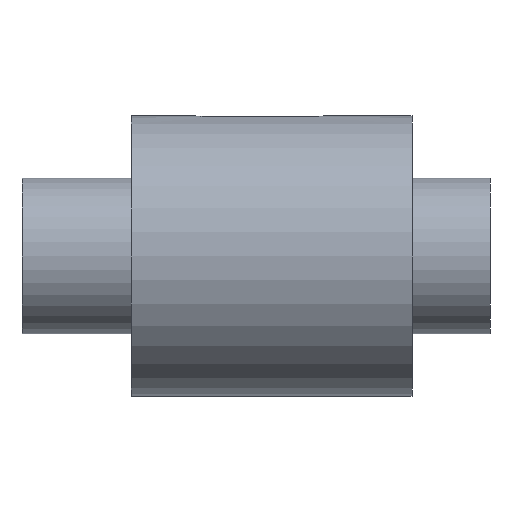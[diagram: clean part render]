
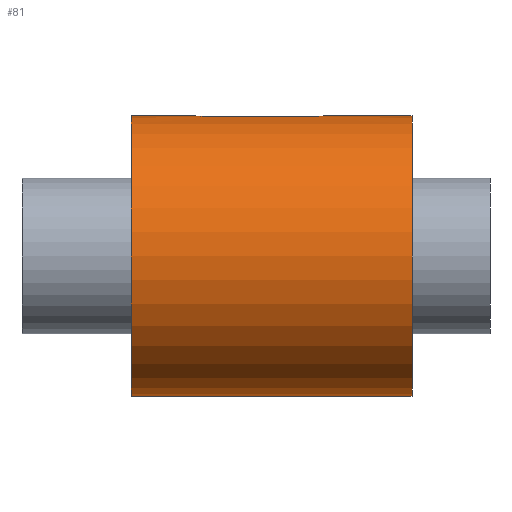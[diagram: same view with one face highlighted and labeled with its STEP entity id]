
A CAD part, left-side view. The second image highlights one B-rep face of the part: STEP entity #81.
In plain terms, the highlighted cylindrical face has radius 18 mm (diameter 36 mm), a full revolution.
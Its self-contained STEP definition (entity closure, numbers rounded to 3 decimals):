
#23=LINE('',#382,#31);
#24=LINE('',#416,#32);
#31=VECTOR('',#287,1.);
#32=VECTOR('',#288,1.);
#39=B_SPLINE_CURVE_WITH_KNOTS('',3,(#349,#350,#351,#352,#353,#354,#355,#356,
#357,#358,#359,#360,#361,#362,#363,#364,#365,#366,#367,#368,#369,#370,#371,
#372,#373,#374,#375,#376,#377,#378,#379),.UNSPECIFIED.,.F.,.F.,(4,3,3,3,
3,3,3,3,3,3,4),(0.,0.107,0.213,0.321,
0.429,0.536,0.642,0.749,
0.856,0.964,1.),.UNSPECIFIED.);
#40=B_SPLINE_CURVE_WITH_KNOTS('',3,(#384,#385,#386,#387,#388,#389,#390,#391,
#392,#393,#394,#395,#396,#397,#398,#399,#400,#401,#402,#403,#404,#405,#406,
#407,#408,#409,#410,#411,#412,#413,#414),.UNSPECIFIED.,.F.,.F.,(4,3,3,3,
3,3,3,3,3,3,4),(0.,0.107,0.213,0.321,
0.429,0.536,0.642,0.749,
0.856,0.964,1.),.UNSPECIFIED.);
#81=ADVANCED_FACE('',(#103,#104,#105),#95,.T.);
#95=CYLINDRICAL_SURFACE('',#250,18.);
#103=FACE_BOUND('',#124,.T.);
#104=FACE_BOUND('',#125,.T.);
#105=FACE_BOUND('',#126,.T.);
#124=EDGE_LOOP('',(#150));
#125=EDGE_LOOP('',(#151));
#126=EDGE_LOOP('',(#152,#153,#154,#155));
#150=ORIENTED_EDGE('',*,*,#210,.F.);
#151=ORIENTED_EDGE('',*,*,#211,.T.);
#152=ORIENTED_EDGE('',*,*,#212,.F.);
#153=ORIENTED_EDGE('',*,*,#213,.F.);
#154=ORIENTED_EDGE('',*,*,#214,.F.);
#155=ORIENTED_EDGE('',*,*,#215,.F.);
#192=VERTEX_POINT('',#346);
#193=VERTEX_POINT('',#348);
#194=VERTEX_POINT('',#380);
#195=VERTEX_POINT('',#381);
#196=VERTEX_POINT('',#383);
#197=VERTEX_POINT('',#415);
#210=EDGE_CURVE('',#192,#192,#232,.T.);
#211=EDGE_CURVE('',#193,#193,#233,.T.);
#212=EDGE_CURVE('',#194,#195,#39,.T.);
#213=EDGE_CURVE('',#196,#194,#23,.T.);
#214=EDGE_CURVE('',#197,#196,#40,.T.);
#215=EDGE_CURVE('',#195,#197,#24,.T.);
#232=CIRCLE('',#248,18.);
#233=CIRCLE('',#249,18.);
#248=AXIS2_PLACEMENT_3D('',#345,#283,#284);
#249=AXIS2_PLACEMENT_3D('',#347,#285,#286);
#250=AXIS2_PLACEMENT_3D('',#417,#289,#290);
#283=DIRECTION('',(0.,-1.,0.));
#284=DIRECTION('',(1.,0.,0.));
#285=DIRECTION('',(0.,-1.,0.));
#286=DIRECTION('',(1.,0.,0.));
#287=DIRECTION('',(0.,1.,0.));
#288=DIRECTION('',(0.,-1.,0.));
#289=DIRECTION('',(0.,1.,0.));
#290=DIRECTION('',(0.,0.,1.));
#345=CARTESIAN_POINT('',(0.,0.,0.));
#346=CARTESIAN_POINT('',(18.,0.,0.));
#347=CARTESIAN_POINT('',(0.,36.,0.));
#348=CARTESIAN_POINT('',(18.,36.,0.));
#349=CARTESIAN_POINT('',(2.5,25.5,17.826));
#350=CARTESIAN_POINT('',(2.5,25.778,17.826));
#351=CARTESIAN_POINT('',(2.452,26.06,17.832));
#352=CARTESIAN_POINT('',(2.361,26.323,17.845));
#353=CARTESIAN_POINT('',(2.269,26.585,17.857));
#354=CARTESIAN_POINT('',(2.131,26.836,17.874));
#355=CARTESIAN_POINT('',(1.959,27.053,17.893));
#356=CARTESIAN_POINT('',(1.786,27.272,17.912));
#357=CARTESIAN_POINT('',(1.572,27.464,17.933));
#358=CARTESIAN_POINT('',(1.336,27.613,17.95));
#359=CARTESIAN_POINT('',(1.099,27.763,17.968));
#360=CARTESIAN_POINT('',(0.832,27.874,17.983));
#361=CARTESIAN_POINT('',(0.558,27.937,17.991));
#362=CARTESIAN_POINT('',(0.286,27.999,18.));
#363=CARTESIAN_POINT('',(0.,28.016,18.002));
#364=CARTESIAN_POINT('',(-0.278,27.985,17.998));
#365=CARTESIAN_POINT('',(-0.553,27.954,17.994));
#366=CARTESIAN_POINT('',(-0.827,27.875,17.983));
#367=CARTESIAN_POINT('',(-1.077,27.756,17.968));
#368=CARTESIAN_POINT('',(-1.328,27.636,17.953));
#369=CARTESIAN_POINT('',(-1.561,27.472,17.933));
#370=CARTESIAN_POINT('',(-1.759,27.277,17.914));
#371=CARTESIAN_POINT('',(-1.958,27.08,17.894));
#372=CARTESIAN_POINT('',(-2.125,26.846,17.875));
#373=CARTESIAN_POINT('',(-2.248,26.594,17.859));
#374=CARTESIAN_POINT('',(-2.371,26.342,17.844));
#375=CARTESIAN_POINT('',(-2.451,26.065,17.832));
#376=CARTESIAN_POINT('',(-2.484,25.786,17.828));
#377=CARTESIAN_POINT('',(-2.495,25.691,17.826));
#378=CARTESIAN_POINT('',(-2.5,25.595,17.826));
#379=CARTESIAN_POINT('',(-2.5,25.5,17.826));
#380=CARTESIAN_POINT('',(2.5,25.5,17.826));
#381=CARTESIAN_POINT('',(-2.5,25.5,17.826));
#382=CARTESIAN_POINT('',(2.5,0.,17.826));
#383=CARTESIAN_POINT('',(2.5,13.5,17.826));
#384=CARTESIAN_POINT('',(-2.5,13.5,17.826));
#385=CARTESIAN_POINT('',(-2.5,13.222,17.826));
#386=CARTESIAN_POINT('',(-2.452,12.94,17.832));
#387=CARTESIAN_POINT('',(-2.361,12.677,17.845));
#388=CARTESIAN_POINT('',(-2.269,12.415,17.857));
#389=CARTESIAN_POINT('',(-2.131,12.164,17.874));
#390=CARTESIAN_POINT('',(-1.959,11.947,17.893));
#391=CARTESIAN_POINT('',(-1.786,11.728,17.912));
#392=CARTESIAN_POINT('',(-1.572,11.536,17.933));
#393=CARTESIAN_POINT('',(-1.336,11.387,17.95));
#394=CARTESIAN_POINT('',(-1.099,11.237,17.968));
#395=CARTESIAN_POINT('',(-0.832,11.126,17.983));
#396=CARTESIAN_POINT('',(-0.558,11.063,17.991));
#397=CARTESIAN_POINT('',(-0.286,11.001,18.));
#398=CARTESIAN_POINT('',(0.,10.984,18.002));
#399=CARTESIAN_POINT('',(0.278,11.015,17.998));
#400=CARTESIAN_POINT('',(0.553,11.046,17.994));
#401=CARTESIAN_POINT('',(0.827,11.125,17.983));
#402=CARTESIAN_POINT('',(1.077,11.244,17.968));
#403=CARTESIAN_POINT('',(1.328,11.364,17.953));
#404=CARTESIAN_POINT('',(1.561,11.528,17.933));
#405=CARTESIAN_POINT('',(1.759,11.723,17.914));
#406=CARTESIAN_POINT('',(1.958,11.92,17.894));
#407=CARTESIAN_POINT('',(2.125,12.154,17.875));
#408=CARTESIAN_POINT('',(2.248,12.406,17.859));
#409=CARTESIAN_POINT('',(2.371,12.658,17.844));
#410=CARTESIAN_POINT('',(2.451,12.935,17.832));
#411=CARTESIAN_POINT('',(2.484,13.214,17.828));
#412=CARTESIAN_POINT('',(2.495,13.309,17.826));
#413=CARTESIAN_POINT('',(2.5,13.405,17.826));
#414=CARTESIAN_POINT('',(2.5,13.5,17.826));
#415=CARTESIAN_POINT('',(-2.5,13.5,17.826));
#416=CARTESIAN_POINT('',(-2.5,0.,17.826));
#417=CARTESIAN_POINT('',(0.,0.,0.));
